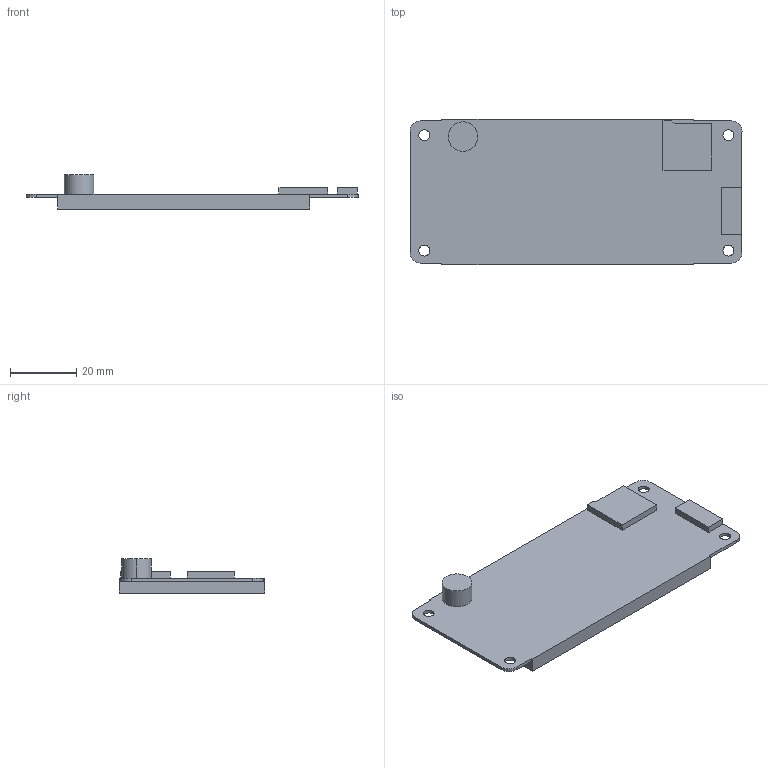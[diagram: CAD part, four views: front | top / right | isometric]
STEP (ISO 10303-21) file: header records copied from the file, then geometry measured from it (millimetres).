
FILE_DESCRIPTION((''),'2;1');
FILE_NAME('DMG64360T030-01WN-WTR','2021-10-27T',('Administrator'),(''),'PRO/ENGINEER BY PARAMETRIC TECHNOLOGY CORPORATION, 2008380','PRO/ENGINEER BY PARAMETRIC TECHNOLOGY CORPORATION, 2008380','');
FILE_SCHEMA(('CONFIG_CONTROL_DESIGN'));
Length unit declared in the file: millimetre
Products named in the file (1): DMG64360T030-01WN-WTR
Bounding box: 100 x 43.8 x 10.3 mm (x, y, z)
Volume: 15902.9 mm3; surface area: 10233 mm2
Topology: 1 solids, 1 shells, 46 faces, 8334 edges, 13916 vertices
Faces by surface type: plane 32, cylinder 14
Entity records: 45164 total; most frequent: DIRECTION 11070, CARTESIAN_POINT 8461, TRIMMED_CURVE 8214, VECTOR 5692, LINE 5692, AXIS2_PLACEMENT_3D 2689, CIRCLE 2642, ORIENTED_EDGE 240
